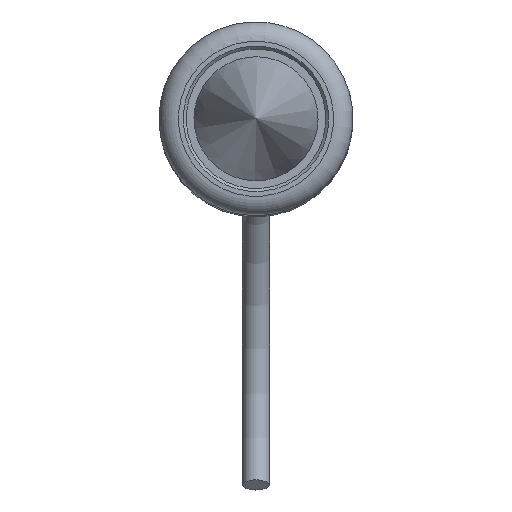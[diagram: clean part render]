
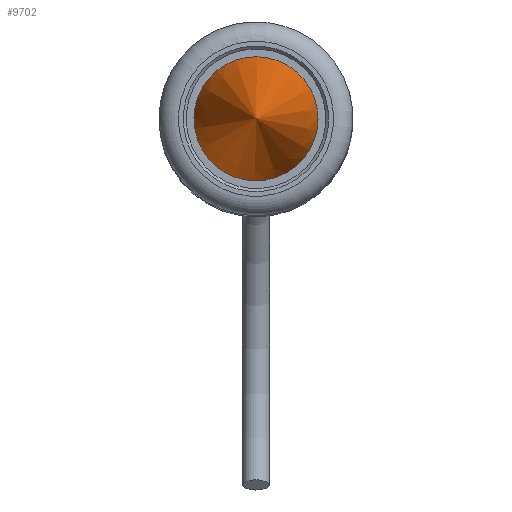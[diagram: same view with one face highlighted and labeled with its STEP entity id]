
A CAD part, top view. The second image highlights one B-rep face of the part: STEP entity #9702.
In plain terms, the highlighted conical face has half-angle 17.998 degrees and reference radius 324.873 mm.
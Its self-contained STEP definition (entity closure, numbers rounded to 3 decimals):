
#2748 = DIRECTION ( 'NONE',  ( 0., 0., -1. ) ) ;
#3019 = EDGE_CURVE ( 'NONE', #5931, #5931, #10191, .T. ) ;
#3632 = CONICAL_SURFACE ( 'NONE', #11816, 324.873, 0.314 ) ;
#5513 = CARTESIAN_POINT ( 'NONE',  ( 0., 0., -902.829 ) ) ;
#5931 = VERTEX_POINT ( 'NONE', #14619 ) ;
#9702 = ADVANCED_FACE ( 'NONE', ( #16159 ), #3632, .T. ) ;
#10191 = CIRCLE ( 'NONE', #15813, 6.4 ) ;
#10354 = EDGE_LOOP ( 'NONE', ( #17676 ) ) ;
#11086 = DIRECTION ( 'NONE',  ( 0.015, 1., 0. ) ) ;
#11755 = DIRECTION ( 'NONE',  ( 0., 0., -1. ) ) ;
#11816 = AXIS2_PLACEMENT_3D ( 'NONE', #5513, #2748, #11086 ) ;
#14549 = DIRECTION ( 'NONE',  ( 0.015, 1., 0. ) ) ;
#14619 = CARTESIAN_POINT ( 'NONE',  ( 0.095, 6.399, 77.471 ) ) ;
#15813 = AXIS2_PLACEMENT_3D ( 'NONE', #17036, #11755, #14549 ) ;
#16159 = FACE_OUTER_BOUND ( 'NONE', #10354, .T. ) ;
#17036 = CARTESIAN_POINT ( 'NONE',  ( 0., 0., 77.471 ) ) ;
#17676 = ORIENTED_EDGE ( 'NONE', *, *, #3019, .F. ) ;
